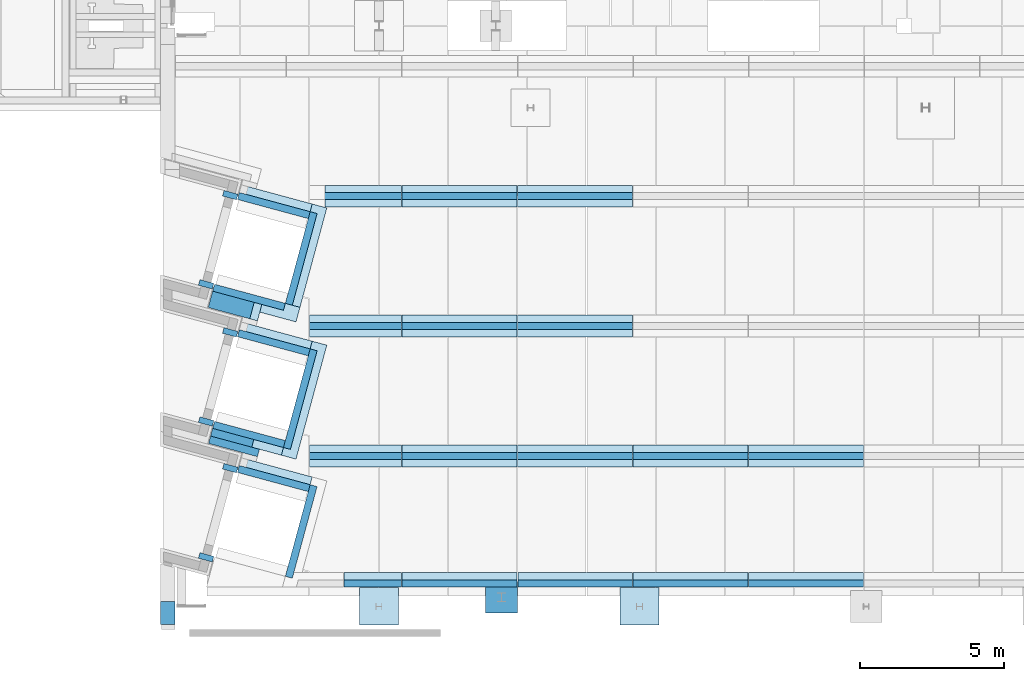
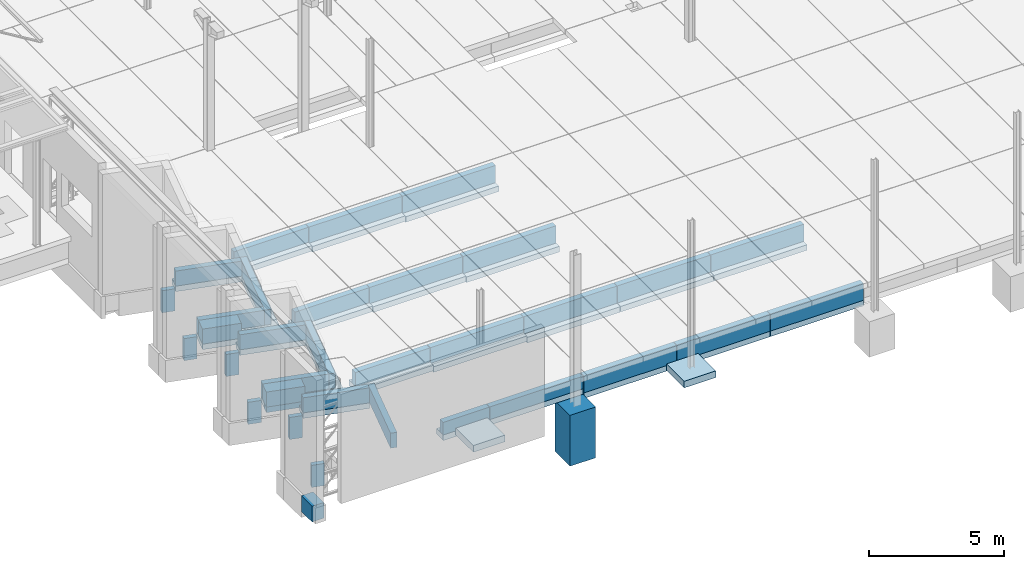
# One storey, part 1 of 59: 61 footings.
"""IFC2X3 building model written with IfcOpenShell, lengths in metres."""

import ifcopenshell
import ifcopenshell.guid

model = None  # the IFC model being written
_history = None  # IfcOwnerHistory: only IFC2X3 demands one
_inside = {}  # id of a spatial element -> (the spatial element, [elements in it])
_under = {}  # id of a project, library or spatial element -> (it, [spatial elements below it])
_declared = {}  # id of a project -> (the project, [libraries it declares])
_typed = {}  # id of a type object -> (the type object, [elements of that type])
_made_of = {}  # id of a material, layer set ... -> (it, [elements and type objects made of it])


def new_model(schema):
    """Start an empty IFC model of exactly this schema.

    Asked for "IFC4X3", IfcOpenShell would pick the latest addendum, in which some entities
    have other attributes; the version numbers below select the first issue.
    IFC2X3 requires an IfcOwnerHistory on every rooted entity: one is made here for all.
    """
    global model, _history
    if schema == "IFC4X3":
        model = ifcopenshell.file(schema_version=(4, 3, 0, 0))
    else:
        model = ifcopenshell.file(schema=schema)
    _inside.clear()
    _under.clear()
    _declared.clear()
    _typed.clear()
    _made_of.clear()
    _history = None
    if model.schema == "IFC2X3":
        org = make("IfcOrganization", Name="unknown")
        user = make(
            "IfcPersonAndOrganization",
            ThePerson=make("IfcPerson", FamilyName="unknown"),
            TheOrganization=org,
        )
        app = make(
            "IfcApplication",
            ApplicationDeveloper=org,
            Version="unknown",
            ApplicationFullName="unknown",
            ApplicationIdentifier="unknown",
        )
        _history = make(
            "IfcOwnerHistory",
            OwningUser=user,
            OwningApplication=app,
            ChangeAction="ADDED",
            CreationDate=0,
        )
    return model


def make(cls, **values):
    """One entity of the class cls with the attributes given. An attribute that is None is left unset."""
    return model.create_entity(
        cls, **{name: value for name, value in values.items() if value is not None}
    )


def entity(cls, *values):
    """Any entity or typed value of the class cls, its attributes in the order of the schema. None: left unset."""
    e = model.create_entity(cls)
    for i, value in enumerate(values):
        if value is not None:
            e[i] = value
    return e


def rooted(cls, **values):
    """An entity with a GlobalId (a new one), such as an element, a storey or a relation."""
    return make(cls, GlobalId=ifcopenshell.guid.new(), OwnerHistory=_history, **values)


def si_unit(unit_type, name, prefix=None):
    """IfcSIUnit, for example si_unit("LENGTHUNIT", "METRE", prefix="MILLI")."""
    return make("IfcSIUnit", UnitType=unit_type, Prefix=prefix, Name=name)


def converted_unit(unit_type, name, factor, base, dimensions=None, offset=None):
    """IfcConversionBasedUnit, such as the inch: factor (a typed value) times the base unit."""
    return make(
        "IfcConversionBasedUnit"
        if offset is None
        else "IfcConversionBasedUnitWithOffset",
        ConversionOffset=offset,
        Dimensions=None
        if dimensions is None
        else entity("IfcDimensionalExponents", *dimensions),
        UnitType=unit_type,
        Name=name,
        ConversionFactor=make(
            "IfcMeasureWithUnit", ValueComponent=factor, UnitComponent=base
        ),
    )


def derived_unit(unit_type, elements):
    """IfcDerivedUnit: a product of units, each with its exponent."""
    return make(
        "IfcDerivedUnit",
        Elements=[
            make("IfcDerivedUnitElement", Unit=unit, Exponent=power)
            for unit, power in elements
        ],
        UnitType=unit_type,
    )


def assignment(units):
    """IfcUnitAssignment: the units of a project."""
    return None if units is None else make("IfcUnitAssignment", Units=units)


def point(xyz):
    """IfcCartesianPoint."""
    return None if xyz is None else make("IfcCartesianPoint", Coordinates=xyz)


def direction(xyz):
    """IfcDirection."""
    return None if xyz is None else make("IfcDirection", DirectionRatios=xyz)


def frame(location, z_axis=None, x_axis=None):
    """IfcAxis2Placement3D, a coordinate frame: its origin and axes. An axis left out is left unset."""
    return make(
        "IfcAxis2Placement3D",
        Location=point(location),
        Axis=direction(z_axis),
        RefDirection=direction(x_axis),
    )


def frame_2d(location, x_axis=None):
    """IfcAxis2Placement2D, a coordinate frame in the plane: its origin and x axis."""
    return make(
        "IfcAxis2Placement2D", Location=point(location), RefDirection=direction(x_axis)
    )


def origin():
    """The frame at (0, 0, 0) with its axes left unset."""
    return frame((0.0, 0.0, 0.0))


def origin_with_axes():
    """The frame at (0, 0, 0) with the z axis (0, 0, 1) and the x axis (1, 0, 0) written out."""
    return frame((0.0, 0.0, 0.0), z_axis=(0.0, 0.0, 1.0), x_axis=(1.0, 0.0, 0.0))


def place(relative_to, where):
    """IfcLocalPlacement: puts the frame where relative to a parent placement (None: the world)."""
    return make(
        "IfcLocalPlacement", PlacementRelTo=relative_to, RelativePlacement=where
    )


def context(
    kind, dimensions, precision=None, world=None, true_north=None, identifier=None
):
    """IfcGeometricRepresentationContext, for example the 3D "Model" context."""
    return make(
        "IfcGeometricRepresentationContext",
        ContextIdentifier=identifier,
        ContextType=kind,
        CoordinateSpaceDimension=dimensions,
        Precision=precision,
        WorldCoordinateSystem=world,
        TrueNorth=true_north,
    )


def subcontext(parent, identifier, kind, view, scale=None):
    """IfcGeometricRepresentationSubContext, for example "Body" below "Model"."""
    return make(
        "IfcGeometricRepresentationSubContext",
        ContextIdentifier=identifier,
        ContextType=kind,
        ParentContext=parent,
        TargetScale=scale,
        TargetView=view,
    )


def project(units=None, contexts=None):
    """IfcProject with its units and contexts."""
    return rooted(
        "IfcProject",
        Name="project",
        RepresentationContexts=contexts,
        UnitsInContext=assignment(units),
    )


def spatial(cls, under=None, at=None, **own):
    """A site, building, storey or space (cls), placed at a placement, below another one or the project."""
    s = rooted(cls, ObjectPlacement=at, **own)
    if under is not None:
        _under.setdefault(under.id(), (under, []))[1].append(s)
    return s


def profile(cls, at=None, kind="AREA", **sizes):
    """A parametric profile (cls). Its sizes go by their IFC names, for example OverallWidth=200.0."""
    return make(cls, ProfileType=kind, Position=at, **sizes)


def rectangle(**sizes):
    """IfcRectangleProfileDef."""
    return profile("IfcRectangleProfileDef", **sizes)


def extrude(swept, where, along, depth):
    """IfcExtrudedAreaSolid: the profile swept, set in the frame where, extruded along a direction by depth."""
    return make(
        "IfcExtrudedAreaSolid",
        SweptArea=swept,
        Position=where,
        ExtrudedDirection=direction(along),
        Depth=depth,
    )


def shape(context_of_items, identifier, shape_type, items):
    """IfcShapeRepresentation: the items that make up one representation, for example the "Body"."""
    return make(
        "IfcShapeRepresentation",
        ContextOfItems=context_of_items,
        RepresentationIdentifier=identifier,
        RepresentationType=shape_type,
        Items=items,
    )


def material(Name=None, Category=None):
    """IfcMaterial."""
    return make("IfcMaterial", Name=Name, Category=Category)


def made_of(thing, what):
    """Note that an element or type object is made of a material, layer set ...; save() writes the relation."""
    if what is not None:
        _made_of.setdefault(what.id(), (what, []))[1].append(thing)
    return thing


def element(
    cls,
    number,
    at=None,
    inside=None,
    cuts=None,
    type_object=None,
    material=None,
    context=None,
    identifier="Body",
    shape_type=None,
    held_by="IfcProductDefinitionShape",
    body=None,
    shapes=None,
    **own,
):
    """One element of the class cls, such as IfcWall. Its Tag is "e" and its number.

    at: its placement. inside: the storey or other place that contains it. cuts: it is an
    opening in that element (IfcRelVoidsElement). A single representation is given by context,
    identifier, shape_type and body (its items); several are given by shapes. held_by: the class
    of the entity that holds the representations. save() writes the other relations.
    """
    e = rooted(cls, Tag="e%d" % number, ObjectPlacement=at, **own)
    if body is not None:
        shapes = [shape(context, identifier, shape_type, body)]
    if shapes is not None:
        e.Representation = make(held_by, Representations=shapes)
    if inside is not None:
        _inside.setdefault(inside.id(), (inside, []))[1].append(e)
    if cuts is not None:
        rooted(
            "IfcRelVoidsElement", RelatingBuildingElement=cuts, RelatedOpeningElement=e
        )
    if type_object is not None:
        _typed.setdefault(type_object.id(), (type_object, []))[1].append(e)
    return made_of(e, material)


def aggregate(whole, parts):
    """IfcRelAggregates: a whole, such as a stair, and the parts it consists of."""
    return rooted("IfcRelAggregates", RelatingObject=whole, RelatedObjects=parts)


def save(model, path):
    """Write the relations noted so far, then the file.

    IfcRelAggregates (storeys below a building ...), IfcRelContainedInSpatialStructure (elements
    in a storey), IfcRelDefinesByType, IfcRelAssociatesMaterial and IfcRelDeclares: one each for
    every whole, place, type object, material and project.
    """
    for whole, parts in _under.values():
        aggregate(whole, parts)
    for where, things in _inside.values():
        rooted(
            "IfcRelContainedInSpatialStructure",
            RelatedElements=things,
            RelatingStructure=where,
        )
    for kind, things in _typed.values():
        rooted("IfcRelDefinesByType", RelatedObjects=things, RelatingType=kind)
    for what, things in _made_of.values():
        rooted("IfcRelAssociatesMaterial", RelatedObjects=things, RelatingMaterial=what)
    for by, libraries in _declared.values():
        rooted("IfcRelDeclares", RelatingContext=by, RelatedDefinitions=libraries)
    model.write(path)


model = new_model("IFC2X3")

# Units and contexts
model_context = context("Model", 3, precision=1e-05, world=origin())
body_context = subcontext(model_context, "Body", "Model", "MODEL_VIEW")
ifc_project = project(units=[si_unit("LENGTHUNIT", "METRE"), si_unit("AREAUNIT", "SQUARE_METRE"), si_unit("VOLUMEUNIT", "CUBIC_METRE"), si_unit("MASSUNIT", "GRAM", prefix="KILO"), converted_unit("PLANEANGLEUNIT", "DEGREE", entity("IfcPlaneAngleMeasure", 0.0174532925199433), si_unit("PLANEANGLEUNIT", "RADIAN"), dimensions=[0, 0, 0, 0, 0, 0, 0]), derived_unit("THERMALTRANSMITTANCEUNIT", [(si_unit("POWERUNIT", "WATT"), 1), (si_unit("THERMODYNAMICTEMPERATUREUNIT", "KELVIN"), -1), (si_unit("LENGTHUNIT", "METRE"), -2)]), derived_unit("VOLUMETRICFLOWRATEUNIT", [(si_unit("LENGTHUNIT", "METRE"), 3), (converted_unit("TIMEUNIT", "hour", entity("IfcTimeMeasure", 3600.0), si_unit("TIMEUNIT", "SECOND"), dimensions=[0, 0, 1, 0, 0, 0, 0]), -1), (si_unit("LENGTHUNIT", "METRE"), -1)])], contexts=[model_context])

# Site, building, storey
site_placement = place(None, origin())
site = spatial("IfcSite", under=ifc_project, at=site_placement, Name="TWP_Speiseverteilzentrum SBW VZ II", CompositionType="ELEMENT")
building_placement = place(site_placement, origin())
building = spatial("IfcBuilding", under=site, at=building_placement, Name="Speiseverteilzentrum SBW VZ II", CompositionType="ELEMENT")
storey_placement = place(building_placement, frame((0.0, 0.0, 1.7307)))
storey = spatial("IfcBuildingStorey", under=building, at=storey_placement, Name="EG_Produktion_FFB", CompositionType="ELEMENT", Elevation=1.7307)

# Footings
ifc_material_1 = material(Name="Stahlbeton")
footing_1_placement = place(storey_placement, frame((25.1500000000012, 10.0401485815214, -1.45)))
element("IfcFooting", 1, at=footing_1_placement, inside=storey, material=ifc_material_1, Name="Stb.-Einzelfundament", ObjectType="COLUMN_FOUNDATION", PredefinedType="USERDEFINED", context=body_context, shape_type="SweptSolid", body=[
    extrude(rectangle(XDim=1.35, YDim=1.3, at=frame_2d((0.675, 0.65), x_axis=(1.0, 0.0))), origin_with_axes(), (0.0, 0.0, 1.0), 0.3),
])
ifc_material_2 = material(Name="Stahlbeton")
footing_2_placement = place(storey_placement, frame((16.125, 10.0401485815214, -1.2)))
element("IfcFooting", 2, at=footing_2_placement, inside=storey, material=ifc_material_2, Name="Stb.-Einzelfundament", ObjectType="COLUMN_FOUNDATION", PredefinedType="USERDEFINED", context=body_context, shape_type="SweptSolid", body=[
    extrude(rectangle(XDim=1.35, YDim=1.3, at=frame_2d((0.675, 0.65), x_axis=(1.0, 0.0))), origin_with_axes(), (0.0, 0.0, 1.0), 0.3),
])
ifc_material_3 = material(Name="Stahlbeton")
footing_3_placement = place(storey_placement, frame((9.73999999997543, 10.059206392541, -1.96), z_axis=(0.0, 0.0, 1.0), x_axis=(0.0, 1.0, 0.0)))
element("IfcFooting", 3, at=footing_3_placement, inside=storey, material=ifc_material_3, Name="Stb.-Streifenfundament", PredefinedType="STRIP_FOOTING", context=body_context, shape_type="SweptSolid", body=[
    extrude(rectangle(XDim=0.499999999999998, YDim=0.71, at=frame_2d((0.249999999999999, 0.355), x_axis=(1.0, 0.0))), frame((0.0, 0.0, 0.0), z_axis=(1.0, 0.0, 0.0), x_axis=(0.0, 1.0, 0.0)), (0.0, 0.0, 1.0), 0.803530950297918),
])
ifc_material_4 = material(Name="Stahlbetonfertigteil")
footing_4_placement = place(storey_placement, frame((21.6199999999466, 11.3601485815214, -1.24)))
element("IfcFooting", 4, at=footing_4_placement, inside=storey, material=ifc_material_4, Name="Stahlbetonfertigteilfundament", PredefinedType="STRIP_FOOTING", context=body_context, shape_type="SweptSolid", body=[
    extrude(rectangle(XDim=0.25, YDim=0.77, at=frame_2d((0.125, 0.385), x_axis=(1.0, 0.0))), frame((0.0, 0.0, 0.0), z_axis=(1.0, 0.0, 0.0), x_axis=(0.0, 1.0, 0.0)), (0.0, 0.0, 1.0), 3.96),
])
ifc_material_5 = material(Name="Stahlbetonfertigteil")
footing_5_placement = place(storey_placement, frame((21.6199999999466, 11.3601485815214, -1.49)))
element("IfcFooting", 5, at=footing_5_placement, inside=storey, material=ifc_material_5, Name="Stahlbetonfertigteilfundament", PredefinedType="STRIP_FOOTING", context=body_context, shape_type="SweptSolid", body=[
    extrude(rectangle(XDim=0.5, YDim=0.25, at=frame_2d((0.25, 0.125), x_axis=(1.0, 0.0))), frame((0.0, 0.0, 0.0), z_axis=(1.0, 0.0, 0.0), x_axis=(0.0, 1.0, 0.0)), (0.0, 0.0, 1.0), 3.96),
])
ifc_material_6 = material(Name="Stahlbetonfertigteil")
footing_6_placement = place(storey_placement, frame((25.5999999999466, 11.3601485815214, -1.24)))
element("IfcFooting", 6, at=footing_6_placement, inside=storey, material=ifc_material_6, Name="Stahlbetonfertigteilfundament", PredefinedType="STRIP_FOOTING", context=body_context, shape_type="SweptSolid", body=[
    extrude(rectangle(XDim=0.25, YDim=0.77, at=frame_2d((0.125, 0.385), x_axis=(1.0, 0.0))), frame((0.0, 0.0, 0.0), z_axis=(1.0, 0.0, 0.0), x_axis=(0.0, 1.0, 0.0)), (0.0, 0.0, 1.0), 3.98),
])
ifc_material_7 = material(Name="Stahlbetonfertigteil")
footing_7_placement = place(storey_placement, frame((25.5999999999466, 11.3601485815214, -1.49)))
element("IfcFooting", 7, at=footing_7_placement, inside=storey, material=ifc_material_7, Name="Stahlbetonfertigteilfundament", PredefinedType="STRIP_FOOTING", context=body_context, shape_type="SweptSolid", body=[
    extrude(rectangle(XDim=0.5, YDim=0.25, at=frame_2d((0.25, 0.125), x_axis=(1.0, 0.0))), frame((0.0, 0.0, 0.0), z_axis=(1.0, 0.0, 0.0), x_axis=(0.0, 1.0, 0.0)), (0.0, 0.0, 1.0), 3.98),
])
ifc_material_8 = material(Name="Stahlbetonfertigteil")
footing_8_placement = place(storey_placement, frame((29.5999999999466, 11.3601485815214, -1.24)))
element("IfcFooting", 8, at=footing_8_placement, inside=storey, material=ifc_material_8, Name="Stahlbetonfertigteilfundament", PredefinedType="STRIP_FOOTING", context=body_context, shape_type="SweptSolid", body=[
    extrude(rectangle(XDim=0.25, YDim=0.77, at=frame_2d((0.125, 0.385), x_axis=(1.0, 0.0))), frame((0.0, 0.0, 0.0), z_axis=(1.0, 0.0, 0.0), x_axis=(0.0, 1.0, 0.0)), (0.0, 0.0, 1.0), 3.98),
])
ifc_material_9 = material(Name="Stahlbetonfertigteil")
footing_9_placement = place(storey_placement, frame((29.5999999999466, 11.3601485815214, -1.49)))
element("IfcFooting", 9, at=footing_9_placement, inside=storey, material=ifc_material_9, Name="Stahlbetonfertigteilfundament", PredefinedType="STRIP_FOOTING", context=body_context, shape_type="SweptSolid", body=[
    extrude(rectangle(XDim=0.5, YDim=0.25, at=frame_2d((0.25, 0.125), x_axis=(1.0, 0.0))), frame((0.0, 0.0, 0.0), z_axis=(1.0, 0.0, 0.0), x_axis=(0.0, 1.0, 0.0)), (0.0, 0.0, 1.0), 3.98),
])
ifc_material_10 = material(Name="Stahlbetonfertigteil")
footing_10_placement = place(storey_placement, frame((17.5999999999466, 11.3601485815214, -1.04)))
element("IfcFooting", 10, at=footing_10_placement, inside=storey, material=ifc_material_10, Name="Stahlbetonfertigteilfundament", PredefinedType="STRIP_FOOTING", context=body_context, shape_type="SweptSolid", body=[
    extrude(rectangle(XDim=0.25, YDim=0.57, at=frame_2d((0.125, 0.285), x_axis=(1.0, 0.0))), frame((0.0, 0.0, 0.0), z_axis=(1.0, 0.0, 0.0), x_axis=(0.0, 1.0, 0.0)), (0.0, 0.0, 1.0), 3.98),
])
ifc_material_11 = material(Name="Stahlbetonfertigteil")
footing_11_placement = place(storey_placement, frame((17.5999999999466, 11.3601485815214, -1.29)))
element("IfcFooting", 11, at=footing_11_placement, inside=storey, material=ifc_material_11, Name="Stahlbetonfertigteilfundament", PredefinedType="STRIP_FOOTING", context=body_context, shape_type="SweptSolid", body=[
    extrude(rectangle(XDim=0.5, YDim=0.25, at=frame_2d((0.25, 0.125), x_axis=(1.0, 0.0))), frame((0.0, 0.0, 0.0), z_axis=(1.0, 0.0, 0.0), x_axis=(0.0, 1.0, 0.0)), (0.0, 0.0, 1.0), 3.98),
])
ifc_material_12 = material(Name="Stahlbetonfertigteil")
footing_12_placement = place(storey_placement, frame((21.5999999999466, 24.5250000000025, -1.5)))
element("IfcFooting", 12, at=footing_12_placement, inside=storey, material=ifc_material_12, Name="Stahlbetonfertigteilfundament", PredefinedType="STRIP_FOOTING", context=body_context, shape_type="SweptSolid", body=[
    extrude(rectangle(XDim=0.75, YDim=0.25, at=frame_2d((0.375, 0.125), x_axis=(1.0, 0.0))), frame((0.0, 0.0, 0.0), z_axis=(1.0, 0.0, 0.0), x_axis=(0.0, 1.0, 0.0)), (0.0, 0.0, 1.0), 3.98),
])
ifc_material_13 = material(Name="Stahlbetonfertigteil")
footing_13_placement = place(storey_placement, frame((21.5999999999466, 24.7750000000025, -1.25)))
element("IfcFooting", 13, at=footing_13_placement, inside=storey, material=ifc_material_13, Name="Stahlbetonfertigteilfundament", PredefinedType="STRIP_FOOTING", context=body_context, shape_type="SweptSolid", body=[
    extrude(rectangle(XDim=0.25, YDim=0.78, at=frame_2d((0.125, 0.39), x_axis=(1.0, 0.0))), frame((0.0, 0.0, 0.0), z_axis=(1.0, 0.0, 0.0), x_axis=(0.0, 1.0, 0.0)), (0.0, 0.0, 1.0), 3.98),
])
ifc_material_14 = material(Name="Stahlbetonfertigteil")
footing_14_placement = place(storey_placement, frame((17.5999999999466, 24.5250000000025, -1.45)))
element("IfcFooting", 14, at=footing_14_placement, inside=storey, material=ifc_material_14, Name="Stahlbetonfertigteilfundament", PredefinedType="STRIP_FOOTING", context=body_context, shape_type="SweptSolid", body=[
    extrude(rectangle(XDim=0.75, YDim=0.25, at=frame_2d((0.375, 0.125), x_axis=(1.0, 0.0))), frame((0.0, 0.0, 0.0), z_axis=(1.0, 0.0, 0.0), x_axis=(0.0, 1.0, 0.0)), (0.0, 0.0, 1.0), 3.98),
])
ifc_material_15 = material(Name="Stahlbetonfertigteil")
footing_15_placement = place(storey_placement, frame((17.5999999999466, 24.7750000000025, -1.2)))
element("IfcFooting", 15, at=footing_15_placement, inside=storey, material=ifc_material_15, Name="Stahlbetonfertigteilfundament", PredefinedType="STRIP_FOOTING", context=body_context, shape_type="SweptSolid", body=[
    extrude(rectangle(XDim=0.25, YDim=0.73, at=frame_2d((0.125, 0.365), x_axis=(1.0, 0.0))), frame((0.0, 0.0, 0.0), z_axis=(1.0, 0.0, 0.0), x_axis=(0.0, 1.0, 0.0)), (0.0, 0.0, 1.0), 3.98),
])
ifc_material_16 = material(Name="Stahlbetonfertigteil")
footing_16_placement = place(storey_placement, frame((21.5999999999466, 20.0250000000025, -1.5)))
element("IfcFooting", 16, at=footing_16_placement, inside=storey, material=ifc_material_16, Name="Stahlbetonfertigteilfundament", PredefinedType="STRIP_FOOTING", context=body_context, shape_type="SweptSolid", body=[
    extrude(rectangle(XDim=0.75, YDim=0.25, at=frame_2d((0.375, 0.125), x_axis=(1.0, 0.0))), frame((0.0, 0.0, 0.0), z_axis=(1.0, 0.0, 0.0), x_axis=(0.0, 1.0, 0.0)), (0.0, 0.0, 1.0), 3.98),
])
ifc_material_17 = material(Name="Stahlbetonfertigteil")
footing_17_placement = place(storey_placement, frame((21.5999999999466, 20.2750000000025, -1.25)))
element("IfcFooting", 17, at=footing_17_placement, inside=storey, material=ifc_material_17, Name="Stahlbetonfertigteilfundament", PredefinedType="STRIP_FOOTING", context=body_context, shape_type="SweptSolid", body=[
    extrude(rectangle(XDim=0.25, YDim=0.78, at=frame_2d((0.125, 0.39), x_axis=(1.0, 0.0))), frame((0.0, 0.0, 0.0), z_axis=(1.0, 0.0, 0.0), x_axis=(0.0, 1.0, 0.0)), (0.0, 0.0, 1.0), 3.98),
])
ifc_material_18 = material(Name="Stahlbetonfertigteil")
footing_18_placement = place(storey_placement, frame((17.5999999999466, 20.0250000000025, -1.45)))
element("IfcFooting", 18, at=footing_18_placement, inside=storey, material=ifc_material_18, Name="Stahlbetonfertigteilfundament", PredefinedType="STRIP_FOOTING", context=body_context, shape_type="SweptSolid", body=[
    extrude(rectangle(XDim=0.75, YDim=0.25, at=frame_2d((0.375, 0.125), x_axis=(1.0, 0.0))), frame((0.0, 0.0, 0.0), z_axis=(1.0, 0.0, 0.0), x_axis=(0.0, 1.0, 0.0)), (0.0, 0.0, 1.0), 3.98),
])
ifc_material_19 = material(Name="Stahlbetonfertigteil")
footing_19_placement = place(storey_placement, frame((17.5999999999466, 20.2750000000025, -1.2)))
element("IfcFooting", 19, at=footing_19_placement, inside=storey, material=ifc_material_19, Name="Stahlbetonfertigteilfundament", PredefinedType="STRIP_FOOTING", context=body_context, shape_type="SweptSolid", body=[
    extrude(rectangle(XDim=0.25, YDim=0.73, at=frame_2d((0.125, 0.365), x_axis=(1.0, 0.0))), frame((0.0, 0.0, 0.0), z_axis=(1.0, 0.0, 0.0), x_axis=(0.0, 1.0, 0.0)), (0.0, 0.0, 1.0), 3.98),
])
ifc_material_20 = material(Name="Stahlbetonfertigteil")
footing_20_placement = place(storey_placement, frame((17.5999999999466, 15.7750000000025, -1.175)))
element("IfcFooting", 20, at=footing_20_placement, inside=storey, material=ifc_material_20, Name="Stahlbetonfertigteilfundament", PredefinedType="STRIP_FOOTING", context=body_context, shape_type="SweptSolid", body=[
    extrude(rectangle(XDim=0.25, YDim=0.705, at=frame_2d((0.125, 0.3525), x_axis=(1.0, 0.0))), frame((0.0, 0.0, 0.0), z_axis=(1.0, 0.0, 0.0), x_axis=(0.0, 1.0, 0.0)), (0.0, 0.0, 1.0), 3.98),
])
ifc_material_21 = material(Name="Stahlbetonfertigteil")
footing_21_placement = place(storey_placement, frame((17.5999999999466, 15.5250000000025, -1.425)))
element("IfcFooting", 21, at=footing_21_placement, inside=storey, material=ifc_material_21, Name="Stahlbetonfertigteilfundament", PredefinedType="STRIP_FOOTING", context=body_context, shape_type="SweptSolid", body=[
    extrude(rectangle(XDim=0.75, YDim=0.25, at=frame_2d((0.375, 0.125), x_axis=(1.0, 0.0))), frame((0.0, 0.0, 0.0), z_axis=(1.0, 0.0, 0.0), x_axis=(0.0, 1.0, 0.0)), (0.0, 0.0, 1.0), 3.98),
])
ifc_material_22 = material(Name="Stahlbetonfertigteil")
footing_22_placement = place(storey_placement, frame((29.5999999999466, 15.5250000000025, -1.5)))
element("IfcFooting", 22, at=footing_22_placement, inside=storey, material=ifc_material_22, Name="Stahlbetonfertigteilfundament", PredefinedType="STRIP_FOOTING", context=body_context, shape_type="SweptSolid", body=[
    extrude(rectangle(XDim=0.75, YDim=0.25, at=frame_2d((0.375, 0.125), x_axis=(1.0, 0.0))), frame((0.0, 0.0, 0.0), z_axis=(1.0, 0.0, 0.0), x_axis=(0.0, 1.0, 0.0)), (0.0, 0.0, 1.0), 3.98),
])
ifc_material_23 = material(Name="Stahlbetonfertigteil")
footing_23_placement = place(storey_placement, frame((29.5999999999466, 15.7750000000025, -1.25)))
element("IfcFooting", 23, at=footing_23_placement, inside=storey, material=ifc_material_23, Name="Stahlbetonfertigteilfundament", PredefinedType="STRIP_FOOTING", context=body_context, shape_type="SweptSolid", body=[
    extrude(rectangle(XDim=0.25, YDim=0.78, at=frame_2d((0.125, 0.39), x_axis=(1.0, 0.0))), frame((0.0, 0.0, 0.0), z_axis=(1.0, 0.0, 0.0), x_axis=(0.0, 1.0, 0.0)), (0.0, 0.0, 1.0), 3.98),
])
ifc_material_24 = material(Name="Stahlbetonfertigteil")
footing_24_placement = place(storey_placement, frame((25.5999999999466, 15.5250000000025, -1.5)))
element("IfcFooting", 24, at=footing_24_placement, inside=storey, material=ifc_material_24, Name="Stahlbetonfertigteilfundament", PredefinedType="STRIP_FOOTING", context=body_context, shape_type="SweptSolid", body=[
    extrude(rectangle(XDim=0.75, YDim=0.25, at=frame_2d((0.375, 0.125), x_axis=(1.0, 0.0))), frame((0.0, 0.0, 0.0), z_axis=(1.0, 0.0, 0.0), x_axis=(0.0, 1.0, 0.0)), (0.0, 0.0, 1.0), 3.98),
])
ifc_material_25 = material(Name="Stahlbetonfertigteil")
footing_25_placement = place(storey_placement, frame((25.5999999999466, 15.7750000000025, -1.25)))
element("IfcFooting", 25, at=footing_25_placement, inside=storey, material=ifc_material_25, Name="Stahlbetonfertigteilfundament", PredefinedType="STRIP_FOOTING", context=body_context, shape_type="SweptSolid", body=[
    extrude(rectangle(XDim=0.25, YDim=0.78, at=frame_2d((0.125, 0.39), x_axis=(1.0, 0.0))), frame((0.0, 0.0, 0.0), z_axis=(1.0, 0.0, 0.0), x_axis=(0.0, 1.0, 0.0)), (0.0, 0.0, 1.0), 3.98),
])
ifc_material_26 = material(Name="Stahlbetonfertigteil")
footing_26_placement = place(storey_placement, frame((21.5999999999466, 15.5250000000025, -1.5)))
element("IfcFooting", 26, at=footing_26_placement, inside=storey, material=ifc_material_26, Name="Stahlbetonfertigteilfundament", PredefinedType="STRIP_FOOTING", context=body_context, shape_type="SweptSolid", body=[
    extrude(rectangle(XDim=0.75, YDim=0.25, at=frame_2d((0.375, 0.125), x_axis=(1.0, 0.0))), frame((0.0, 0.0, 0.0), z_axis=(1.0, 0.0, 0.0), x_axis=(0.0, 1.0, 0.0)), (0.0, 0.0, 1.0), 3.98),
])
ifc_material_27 = material(Name="Stahlbetonfertigteil")
footing_27_placement = place(storey_placement, frame((21.5999999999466, 15.7750000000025, -1.25)))
element("IfcFooting", 27, at=footing_27_placement, inside=storey, material=ifc_material_27, Name="Stahlbetonfertigteilfundament", PredefinedType="STRIP_FOOTING", context=body_context, shape_type="SweptSolid", body=[
    extrude(rectangle(XDim=0.25, YDim=0.78, at=frame_2d((0.125, 0.39), x_axis=(1.0, 0.0))), frame((0.0, 0.0, 0.0), z_axis=(1.0, 0.0, 0.0), x_axis=(0.0, 1.0, 0.0)), (0.0, 0.0, 1.0), 3.98),
])
ifc_material_28 = material(Name="Stahlbeton")
footing_28_placement = place(storey_placement, frame((20.5000000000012, 10.4551485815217, -3.62)))
element("IfcFooting", 28, at=footing_28_placement, inside=storey, material=ifc_material_28, Name="Stb.-Einzelfundament", ObjectType="COLUMN_FOUNDATION", PredefinedType="USERDEFINED", context=body_context, shape_type="SweptSolid", body=[
    extrude(rectangle(XDim=1.1, YDim=1.1, at=frame_2d((0.55, 0.55), x_axis=(1.0, 0.0))), origin_with_axes(), (0.0, 0.0, 1.0), 2.3),
])
ifc_material_29 = material(Name="Stahlbetonfertigteil")
footing_29_placement = place(storey_placement, frame((14.3999999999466, 24.7750000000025, -1.15)))
element("IfcFooting", 29, at=footing_29_placement, inside=storey, material=ifc_material_29, Name="Stahlbetonfertigteilfundament", PredefinedType="STRIP_FOOTING", context=body_context, shape_type="SweptSolid", body=[
    extrude(rectangle(XDim=0.25, YDim=0.68, at=frame_2d((0.125, 0.34), x_axis=(1.0, 0.0))), frame((0.0, 0.0, 0.0), z_axis=(1.0, 0.0, 0.0), x_axis=(0.0, 1.0, 0.0)), (0.0, 0.0, 1.0), 3.17999999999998),
])
ifc_material_30 = material(Name="Stahlbetonfertigteil")
footing_30_placement = place(storey_placement, frame((14.9399999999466, 24.5250000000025, -1.4)))
element("IfcFooting", 30, at=footing_30_placement, inside=storey, material=ifc_material_30, Name="Stahlbetonfertigteilfundament", PredefinedType="STRIP_FOOTING", context=body_context, shape_type="SweptSolid", body=[
    extrude(rectangle(XDim=0.75, YDim=0.25, at=frame_2d((0.375, 0.125), x_axis=(1.0, 0.0))), frame((0.0, 0.0, 0.0), z_axis=(1.0, 0.0, 0.0), x_axis=(0.0, 1.0, 0.0)), (0.0, 0.0, 1.0), 2.64),
])
ifc_material_31 = material(Name="Stahlbetonfertigteil")
footing_31_placement = place(storey_placement, frame((14.3999999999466, 15.7750000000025, -1.1)))
element("IfcFooting", 31, at=footing_31_placement, inside=storey, material=ifc_material_31, Name="Stahlbetonfertigteilfundament", PredefinedType="STRIP_FOOTING", context=body_context, shape_type="SweptSolid", body=[
    extrude(rectangle(XDim=0.25, YDim=0.63, at=frame_2d((0.125, 0.315), x_axis=(1.0, 0.0))), frame((0.0, 0.0, 0.0), z_axis=(1.0, 0.0, 0.0), x_axis=(0.0, 1.0, 0.0)), (0.0, 0.0, 1.0), 3.18000000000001),
])
ifc_material_32 = material(Name="Stahlbetonfertigteil")
footing_32_placement = place(storey_placement, frame((14.3999999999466, 20.0250000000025, -1.4)))
element("IfcFooting", 32, at=footing_32_placement, inside=storey, material=ifc_material_32, Name="Stahlbetonfertigteilfundament", PredefinedType="STRIP_FOOTING", context=body_context, shape_type="SweptSolid", body=[
    extrude(rectangle(XDim=0.75, YDim=0.25, at=frame_2d((0.375, 0.125), x_axis=(1.0, 0.0))), frame((0.0, 0.0, 0.0), z_axis=(1.0, 0.0, 0.0), x_axis=(0.0, 1.0, 0.0)), (0.0, 0.0, 1.0), 3.18000000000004),
])
ifc_material_33 = material(Name="Stahlbetonfertigteil")
footing_33_placement = place(storey_placement, frame((14.3999999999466, 20.2750000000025, -1.15)))
element("IfcFooting", 33, at=footing_33_placement, inside=storey, material=ifc_material_33, Name="Stahlbetonfertigteilfundament", PredefinedType="STRIP_FOOTING", context=body_context, shape_type="SweptSolid", body=[
    extrude(rectangle(XDim=0.25, YDim=0.68, at=frame_2d((0.125, 0.34), x_axis=(1.0, 0.0))), frame((0.0, 0.0, 0.0), z_axis=(1.0, 0.0, 0.0), x_axis=(0.0, 1.0, 0.0)), (0.0, 0.0, 1.0), 3.18000000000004),
])
ifc_material_34 = material(Name="Stahlbetonfertigteil")
footing_34_placement = place(storey_placement, frame((15.5999999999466, 11.3601485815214, -1.04)))
element("IfcFooting", 34, at=footing_34_placement, inside=storey, material=ifc_material_34, Name="Stahlbetonfertigteilfundament", PredefinedType="STRIP_FOOTING", context=body_context, shape_type="SweptSolid", body=[
    extrude(rectangle(XDim=0.25, YDim=0.57, at=frame_2d((0.125, 0.285), x_axis=(1.0, 0.0))), frame((0.0, 0.0, 0.0), z_axis=(1.0, 0.0, 0.0), x_axis=(0.0, 1.0, 0.0)), (0.0, 0.0, 1.0), 1.98000000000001),
])
ifc_material_35 = material(Name="Stahlbetonfertigteil")
footing_35_placement = place(storey_placement, frame((15.5999999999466, 11.3601485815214, -1.29)))
element("IfcFooting", 35, at=footing_35_placement, inside=storey, material=ifc_material_35, Name="Stahlbetonfertigteilfundament", PredefinedType="STRIP_FOOTING", context=body_context, shape_type="SweptSolid", body=[
    extrude(rectangle(XDim=0.5, YDim=0.25, at=frame_2d((0.25, 0.125), x_axis=(1.0, 0.0))), frame((0.0, 0.0, 0.0), z_axis=(1.0, 0.0, 0.0), x_axis=(0.0, 1.0, 0.0)), (0.0, 0.0, 1.0), 1.98000000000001),
])
ifc_material_36 = material(Name="Stahlbeton")
footing_36_placement = place(storey_placement, frame((10.6024305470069, 12.5522207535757, -2.25), z_axis=(0.0, 0.0, 1.0), x_axis=(-0.261013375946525, -0.965335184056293, 0.0)))
element("IfcFooting", 36, at=footing_36_placement, inside=storey, material=ifc_material_36, Name="Stb.-Streifenfundament", PredefinedType="STRIP_FOOTING", context=body_context, shape_type="SweptSolid", body=[
    extrude(rectangle(XDim=0.499999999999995, YDim=1.0, at=frame_2d((0.249999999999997, 0.5), x_axis=(1.0, 0.0))), frame((0.0, 0.0, 0.0), z_axis=(1.0, 0.0, 0.0), x_axis=(0.0, 1.0, 0.0)), (0.0, 0.0, 1.0), 0.200000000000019),
])
ifc_material_37 = material(Name="Stahlbetonfertigteil")
footing_37_placement = place(storey_placement, frame((14.3999999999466, 15.5250000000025, -1.35)))
element("IfcFooting", 37, at=footing_37_placement, inside=storey, material=ifc_material_37, Name="Stahlbetonfertigteilfundament", PredefinedType="STRIP_FOOTING", context=body_context, shape_type="SweptSolid", body=[
    extrude(rectangle(XDim=0.75, YDim=0.25, at=frame_2d((0.375, 0.125), x_axis=(1.0, 0.0))), frame((0.0, 0.0, 0.0), z_axis=(1.0, 0.0, 0.0), x_axis=(0.0, 1.0, 0.0)), (0.0, 0.0, 1.0), 3.18000000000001),
])
ifc_material_38 = material(Name="Stahlbeton")
footing_38_placement = place(storey_placement, frame((10.6024305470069, 22.0063194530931, -2.25), z_axis=(0.0, 0.0, 1.0), x_axis=(-0.261013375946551, -0.965335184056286, 0.0)))
element("IfcFooting", 38, at=footing_38_placement, inside=storey, material=ifc_material_38, Name="Stb.-Streifenfundament", PredefinedType="STRIP_FOOTING", context=body_context, shape_type="SweptSolid", body=[
    extrude(rectangle(XDim=0.499999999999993, YDim=1.0, at=frame_2d((0.249999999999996, 0.5), x_axis=(1.0, 0.0))), frame((0.0, 0.0, 0.0), z_axis=(1.0, 0.0, 0.0), x_axis=(0.0, 1.0, 0.0)), (0.0, 0.0, 1.0), 0.20000000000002),
])
ifc_material_39 = material(Name="Stahlbeton")
footing_39_placement = place(storey_placement, frame((11.437489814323, 20.3431786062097, -2.25), z_axis=(0.0, 0.0, 1.0), x_axis=(-0.261013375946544, -0.965335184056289, 0.0)))
element("IfcFooting", 39, at=footing_39_placement, inside=storey, material=ifc_material_39, Name="Stb.-Streifenfundament", PredefinedType="STRIP_FOOTING", context=body_context, shape_type="SweptSolid", body=[
    extrude(rectangle(XDim=0.499999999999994, YDim=1.0, at=frame_2d((0.249999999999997, 0.5), x_axis=(1.0, 0.0))), frame((0.0, 0.0, 0.0), z_axis=(1.0, 0.0, 0.0), x_axis=(0.0, 1.0, 0.0)), (0.0, 0.0, 1.0), 0.200000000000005),
])
ifc_material_40 = material(Name="Stahlbeton")
footing_40_placement = place(storey_placement, frame((11.437489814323, 25.0947132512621, -2.25), z_axis=(0.0, 0.0, 1.0), x_axis=(-0.261013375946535, -0.965335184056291, 0.0)))
element("IfcFooting", 40, at=footing_40_placement, inside=storey, material=ifc_material_40, Name="Stb.-Streifenfundament", PredefinedType="STRIP_FOOTING", context=body_context, shape_type="SweptSolid", body=[
    extrude(rectangle(XDim=0.499999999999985, YDim=1.0, at=frame_2d((0.249999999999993, 0.5), x_axis=(1.0, 0.0))), frame((0.0, 0.0, 0.0), z_axis=(1.0, 0.0, 0.0), x_axis=(0.0, 1.0, 0.0)), (0.0, 0.0, 1.0), 0.200000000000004),
])
ifc_material_41 = material(Name="Stahlbeton")
footing_41_placement = place(storey_placement, frame((11.437489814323, 15.6406145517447, -2.25), z_axis=(0.0, 0.0, 1.0), x_axis=(-0.261013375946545, -0.965335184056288, 0.0)))
element("IfcFooting", 41, at=footing_41_placement, inside=storey, material=ifc_material_41, Name="Stb.-Streifenfundament", PredefinedType="STRIP_FOOTING", context=body_context, shape_type="SweptSolid", body=[
    extrude(rectangle(XDim=0.499999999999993, YDim=1.0, at=frame_2d((0.249999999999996, 0.5), x_axis=(1.0, 0.0))), frame((0.0, 0.0, 0.0), z_axis=(1.0, 0.0, 0.0), x_axis=(0.0, 1.0, 0.0)), (0.0, 0.0, 1.0), 0.19999999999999),
])
ifc_material_42 = material(Name="Stahlbeton")
footing_42_placement = place(storey_placement, frame((10.6024305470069, 17.2547848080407, -2.25), z_axis=(0.0, 0.0, 1.0), x_axis=(-0.261013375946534, -0.965335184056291, 0.0)))
element("IfcFooting", 42, at=footing_42_placement, inside=storey, material=ifc_material_42, Name="Stb.-Streifenfundament", PredefinedType="STRIP_FOOTING", context=body_context, shape_type="SweptSolid", body=[
    extrude(rectangle(XDim=0.499999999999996, YDim=1.0, at=frame_2d((0.249999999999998, 0.5), x_axis=(1.0, 0.0))), frame((0.0, 0.0, 0.0), z_axis=(1.0, 0.0, 0.0), x_axis=(0.0, 1.0, 0.0)), (0.0, 0.0, 1.0), 0.200000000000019),
])
ifc_material_43 = material(Name="Stahlbeton")
footing_43_placement = place(storey_placement, frame((14.4193397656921, 24.3609756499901, -1.15), z_axis=(0.0, 0.0, 1.0), x_axis=(-0.965335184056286, 0.261013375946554, 0.0)))
element("IfcFooting", 43, at=footing_43_placement, inside=storey, material=ifc_material_43, Name="Stb.-Fundament", PredefinedType="STRIP_FOOTING", context=body_context, shape_type="SweptSolid", body=[
    extrude(rectangle(XDim=0.249999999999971, YDim=0.68, at=frame_2d((0.124999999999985, 0.34), x_axis=(1.0, 0.0))), frame((0.0, 0.0, 0.0), z_axis=(1.0, 0.0, 0.0), x_axis=(0.0, 1.0, 0.0)), (0.0, 0.0, 1.0), 2.54),
])
ifc_material_44 = material(Name="Stahlbeton")
footing_44_placement = place(storey_placement, frame((11.9021350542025, 24.7826158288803, -1.4), z_axis=(0.0, 0.0, 1.0), x_axis=(0.965335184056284, -0.26101337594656, 0.0)))
element("IfcFooting", 44, at=footing_44_placement, inside=storey, material=ifc_material_44, Name="Stb.-Fundament", PredefinedType="STRIP_FOOTING", context=body_context, shape_type="SweptSolid", body=[
    extrude(rectangle(XDim=0.524999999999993, YDim=0.25, at=frame_2d((0.262499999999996, 0.125), x_axis=(1.0, 0.0))), frame((0.0, 0.0, 0.0), z_axis=(1.0, 0.0, 0.0), x_axis=(0.0, 1.0, 0.0)), (0.0, 0.0, 1.0), 2.53999999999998),
])
ifc_material_45 = material(Name="Stahlbeton")
footing_45_placement = place(storey_placement, frame((14.4911184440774, 24.6264428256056, -1.4), z_axis=(0.0, 0.0, 1.0), x_axis=(-0.261013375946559, -0.965335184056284, 0.0)))
element("IfcFooting", 45, at=footing_45_placement, inside=storey, material=ifc_material_45, Name="Stb.-Fundament", PredefinedType="STRIP_FOOTING", context=body_context, shape_type="SweptSolid", body=[
    extrude(rectangle(XDim=0.525000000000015, YDim=0.25, at=frame_2d((0.262500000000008, 0.125), x_axis=(1.0, 0.0))), frame((0.0, 0.0, 0.0), z_axis=(1.0, 0.0, 0.0), x_axis=(0.0, 1.0, 0.0)), (0.0, 0.0, 1.0), 3.5642968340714),
])
ifc_material_46 = material(Name="Stahlbeton")
footing_46_placement = place(storey_placement, frame((11.0435845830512, 21.6073418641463, -1.15), z_axis=(0.0, 0.0, 1.0), x_axis=(0.965335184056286, -0.261013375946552, 0.0)))
element("IfcFooting", 46, at=footing_46_placement, inside=storey, material=ifc_material_46, Name="Stb.-Fundament", PredefinedType="STRIP_FOOTING", context=body_context, shape_type="SweptSolid", body=[
    extrude(rectangle(XDim=0.249999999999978, YDim=0.68, at=frame_2d((0.124999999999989, 0.34), x_axis=(1.0, 0.0))), frame((0.0, 0.0, 0.0), z_axis=(1.0, 0.0, 0.0), x_axis=(0.0, 1.0, 0.0)), (0.0, 0.0, 1.0), 2.53999999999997),
])
ifc_material_47 = material(Name="Stahlbeton")
footing_47_placement = place(storey_placement, frame((11.9021350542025, 20.0310811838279, -1.4), z_axis=(0.0, 0.0, 1.0), x_axis=(0.965335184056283, -0.261013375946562, 0.0)))
element("IfcFooting", 47, at=footing_47_placement, inside=storey, material=ifc_material_47, Name="Stb.-Fundament", PredefinedType="STRIP_FOOTING", context=body_context, shape_type="SweptSolid", body=[
    extrude(rectangle(XDim=0.524999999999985, YDim=0.25, at=frame_2d((0.262499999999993, 0.125), x_axis=(1.0, 0.0))), frame((0.0, 0.0, 0.0), z_axis=(1.0, 0.0, 0.0), x_axis=(0.0, 1.0, 0.0)), (0.0, 0.0, 1.0), 2.53999999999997),
])
ifc_material_48 = material(Name="Stahlbeton")
footing_48_placement = place(storey_placement, frame((14.4193397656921, 19.6094410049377, -1.15), z_axis=(0.0, 0.0, 1.0), x_axis=(-0.965335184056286, 0.261013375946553, 0.0)))
element("IfcFooting", 48, at=footing_48_placement, inside=storey, material=ifc_material_48, Name="Stb.-Fundament", PredefinedType="STRIP_FOOTING", context=body_context, shape_type="SweptSolid", body=[
    extrude(rectangle(XDim=0.249999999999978, YDim=0.68, at=frame_2d((0.124999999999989, 0.34), x_axis=(1.0, 0.0))), frame((0.0, 0.0, 0.0), z_axis=(1.0, 0.0, 0.0), x_axis=(0.0, 1.0, 0.0)), (0.0, 0.0, 1.0), 2.54),
])
ifc_material_49 = material(Name="Stahlbeton")
footing_49_placement = place(storey_placement, frame((12.3287883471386, 20.6512158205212, -1.15), z_axis=(0.0, 0.0, 1.0), x_axis=(0.261013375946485, 0.965335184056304, 0.0)))
element("IfcFooting", 49, at=footing_49_placement, inside=storey, material=ifc_material_49, Name="Stb.-Fundament", PredefinedType="STRIP_FOOTING", context=body_context, shape_type="SweptSolid", body=[
    extrude(rectangle(XDim=1.49021409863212, YDim=0.68, at=frame_2d((0.745107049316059, 0.34), x_axis=(1.0, 0.0))), frame((0.0, 0.0, 0.0), z_axis=(1.0, 0.0, 0.0), x_axis=(0.0, 1.0, 0.0)), (0.0, 0.0, 1.0), 0.587526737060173),
])
ifc_material_50 = material(Name="Stahlbeton")
footing_50_placement = place(storey_placement, frame((14.0675902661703, 21.0486696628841, -1.4), z_axis=(0.0, 0.0, 1.0), x_axis=(-0.965335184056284, 0.26101337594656, 0.0)))
element("IfcFooting", 50, at=footing_50_placement, inside=storey, material=ifc_material_50, Name="Stb.-Fundament", PredefinedType="STRIP_FOOTING", context=body_context, shape_type="SweptSolid", body=[
    extrude(rectangle(XDim=0.524999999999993, YDim=0.25, at=frame_2d((0.262499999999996, 0.125), x_axis=(1.0, 0.0))), frame((0.0, 0.0, 0.0), z_axis=(1.0, 0.0, 0.0), x_axis=(0.0, 1.0, 0.0)), (0.0, 0.0, 1.0), 1.2997859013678),
])
ifc_material_51 = material(Name="Stahlbeton")
footing_51_placement = place(storey_placement, frame((12.8128612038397, 21.3879311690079, -1.4), z_axis=(0.0, 0.0, 1.0), x_axis=(-0.965335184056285, 0.261013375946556, 0.0)))
element("IfcFooting", 51, at=footing_51_placement, inside=storey, material=ifc_material_51, Name="Stb.-Fundament", PredefinedType="STRIP_FOOTING", context=body_context, shape_type="SweptSolid", body=[
    extrude(rectangle(XDim=0.837526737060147, YDim=0.25, at=frame_2d((0.418763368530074, 0.125), x_axis=(1.0, 0.0))), frame((0.0, 0.0, 0.0), z_axis=(1.0, 0.0, 0.0), x_axis=(0.0, 1.0, 0.0)), (0.0, 0.0, 1.0), 1.76521409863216),
])
ifc_material_52 = material(Name="Stahlbeton")
footing_52_placement = place(storey_placement, frame((13.7368697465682, 20.8791145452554, -1.15), z_axis=(0.0, 0.0, 1.0), x_axis=(0.261013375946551, 0.965335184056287, 0.0)))
element("IfcFooting", 52, at=footing_52_placement, inside=storey, material=ifc_material_52, Name="Stb.-Fundament", PredefinedType="STRIP_FOOTING", context=body_context, shape_type="SweptSolid", body=[
    extrude(rectangle(XDim=0.249999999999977, YDim=0.68, at=frame_2d((0.124999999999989, 0.34), x_axis=(1.0, 0.0))), frame((0.0, 0.0, 0.0), z_axis=(1.0, 0.0, 0.0), x_axis=(0.0, 1.0, 0.0)), (0.0, 0.0, 1.0), 3.53929683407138),
])
ifc_material_53 = material(Name="Stahlbeton")
footing_53_placement = place(storey_placement, frame((11.0435845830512, 16.8558072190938, -1.15), z_axis=(0.0, 0.0, 1.0), x_axis=(0.965335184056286, -0.261013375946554, 0.0)))
element("IfcFooting", 53, at=footing_53_placement, inside=storey, material=ifc_material_53, Name="Stb.-Fundament", PredefinedType="STRIP_FOOTING", context=body_context, shape_type="SweptSolid", body=[
    extrude(rectangle(XDim=0.249999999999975, YDim=0.68, at=frame_2d((0.124999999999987, 0.34), x_axis=(1.0, 0.0))), frame((0.0, 0.0, 0.0), z_axis=(1.0, 0.0, 0.0), x_axis=(0.0, 1.0, 0.0)), (0.0, 0.0, 1.0), 2.53999999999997),
])
ifc_material_54 = material(Name="Stahlbeton")
footing_54_placement = place(storey_placement, frame((13.7368697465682, 16.1275799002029, -1.15), z_axis=(0.0, 0.0, 1.0), x_axis=(0.261013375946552, 0.965335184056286, 0.0)))
element("IfcFooting", 54, at=footing_54_placement, inside=storey, material=ifc_material_54, Name="Stb.-Fundament", PredefinedType="STRIP_FOOTING", context=body_context, shape_type="SweptSolid", body=[
    extrude(rectangle(XDim=0.249999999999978, YDim=0.68, at=frame_2d((0.124999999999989, 0.34), x_axis=(1.0, 0.0))), frame((0.0, 0.0, 0.0), z_axis=(1.0, 0.0, 0.0), x_axis=(0.0, 1.0, 0.0)), (0.0, 0.0, 1.0), 3.53929683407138),
])
ifc_material_55 = material(Name="Stahlbeton")
footing_55_placement = place(storey_placement, frame((14.4911184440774, 19.8749081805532, -1.4), z_axis=(0.0, 0.0, 1.0), x_axis=(-0.26101337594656, -0.965335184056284, 0.0)))
element("IfcFooting", 55, at=footing_55_placement, inside=storey, material=ifc_material_55, Name="Stb.-Fundament", PredefinedType="STRIP_FOOTING", context=body_context, shape_type="SweptSolid", body=[
    extrude(rectangle(XDim=0.525000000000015, YDim=0.25, at=frame_2d((0.262500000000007, 0.125), x_axis=(1.0, 0.0))), frame((0.0, 0.0, 0.0), z_axis=(1.0, 0.0, 0.0), x_axis=(0.0, 1.0, 0.0)), (0.0, 0.0, 1.0), 4.0892968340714),
])
ifc_material_56 = material(Name="Stahlbeton")
footing_56_placement = place(storey_placement, frame((12.3287883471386, 15.9486517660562, -1.15), z_axis=(0.0, 0.0, 1.0), x_axis=(0.261013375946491, 0.965335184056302, 0.0)))
element("IfcFooting", 56, at=footing_56_placement, inside=storey, material=ifc_material_56, Name="Stb.-Fundament", PredefinedType="STRIP_FOOTING", context=body_context, shape_type="SweptSolid", body=[
    extrude(rectangle(XDim=1.47743211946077, YDim=0.68, at=frame_2d((0.738716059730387, 0.34), x_axis=(1.0, 0.0))), frame((0.0, 0.0, 0.0), z_axis=(1.0, 0.0, 0.0), x_axis=(0.0, 1.0, 0.0)), (0.0, 0.0, 1.0), 0.540253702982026),
])
ifc_material_57 = material(Name="Stahlbeton")
footing_57_placement = place(storey_placement, frame((10.9718059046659, 16.5903400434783, -1.4), z_axis=(0.0, 0.0, 1.0), x_axis=(-0.261013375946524, -0.965335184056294, 0.0)))
element("IfcFooting", 57, at=footing_57_placement, inside=storey, material=ifc_material_57, Name="Stb.-Fundament", PredefinedType="STRIP_FOOTING", context=body_context, shape_type="SweptSolid", body=[
    extrude(rectangle(XDim=1.75243211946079, YDim=0.25, at=frame_2d((0.876216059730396, 0.125), x_axis=(1.0, 0.0))), frame((0.0, 0.0, 0.0), z_axis=(1.0, 0.0, 0.0), x_axis=(0.0, 1.0, 0.0)), (0.0, 0.0, 1.0), 0.265253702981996),
])
ifc_material_58 = material(Name="Stahlbeton")
footing_58_placement = place(storey_placement, frame((13.5607892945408, 16.4341670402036, -1.4), z_axis=(0.0, 0.0, 1.0), x_axis=(-0.965335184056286, 0.261013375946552, 0.0)))
element("IfcFooting", 58, at=footing_58_placement, inside=storey, material=ifc_material_58, Name="Stb.-Fundament", PredefinedType="STRIP_FOOTING", context=body_context, shape_type="SweptSolid", body=[
    extrude(rectangle(XDim=0.525000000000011, YDim=0.25, at=frame_2d((0.262500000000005, 0.125), x_axis=(1.0, 0.0))), frame((0.0, 0.0, 0.0), z_axis=(1.0, 0.0, 0.0), x_axis=(0.0, 1.0, 0.0)), (0.0, 0.0, 1.0), 2.53999999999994),
])
ifc_material_59 = material(Name="Stahlbeton")
footing_59_placement = place(storey_placement, frame((14.4193397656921, 14.9068769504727, -1.15), z_axis=(0.0, 0.0, 1.0), x_axis=(-0.965335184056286, 0.261013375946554, 0.0)))
element("IfcFooting", 59, at=footing_59_placement, inside=storey, material=ifc_material_59, Name="Stb.-Fundament", PredefinedType="STRIP_FOOTING", context=body_context, shape_type="SweptSolid", body=[
    extrude(rectangle(XDim=0.249999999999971, YDim=0.68, at=frame_2d((0.124999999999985, 0.34), x_axis=(1.0, 0.0))), frame((0.0, 0.0, 0.0), z_axis=(1.0, 0.0, 0.0), x_axis=(0.0, 1.0, 0.0)), (0.0, 0.0, 1.0), 2.54000000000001),
])
ifc_material_60 = material(Name="Stahlbeton")
footing_60_placement = place(storey_placement, frame((11.9021350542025, 15.3285171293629, -1.4), z_axis=(0.0, 0.0, 1.0), x_axis=(0.965335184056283, -0.261013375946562, 0.0)))
element("IfcFooting", 60, at=footing_60_placement, inside=storey, material=ifc_material_60, Name="Stb.-Fundament", PredefinedType="STRIP_FOOTING", context=body_context, shape_type="SweptSolid", body=[
    extrude(rectangle(XDim=0.524999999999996, YDim=0.25, at=frame_2d((0.262499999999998, 0.125), x_axis=(1.0, 0.0))), frame((0.0, 0.0, 0.0), z_axis=(1.0, 0.0, 0.0), x_axis=(0.0, 1.0, 0.0)), (0.0, 0.0, 1.0), 2.53999999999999),
])
ifc_material_61 = material(Name="Stahlbeton")
footing_61_placement = place(storey_placement, frame((13.8021230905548, 11.666349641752, -1.15), z_axis=(0.0, 0.0, 1.0), x_axis=(0.261013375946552, 0.965335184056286, 0.0)))
element("IfcFooting", 61, at=footing_61_placement, inside=storey, material=ifc_material_61, Name="Stb.-Fundament", PredefinedType="STRIP_FOOTING", context=body_context, shape_type="SweptSolid", body=[
    extrude(rectangle(XDim=0.249999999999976, YDim=0.68, at=frame_2d((0.124999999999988, 0.34), x_axis=(1.0, 0.0))), frame((0.0, 0.0, 0.0), z_axis=(1.0, 0.0, 0.0), x_axis=(0.0, 1.0, 0.0)), (0.0, 0.0, 1.0), 3.28929683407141),
])

save(model, "model.ifc")
